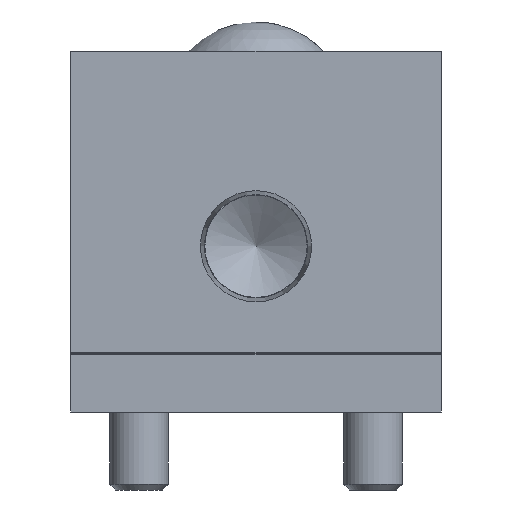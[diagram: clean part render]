
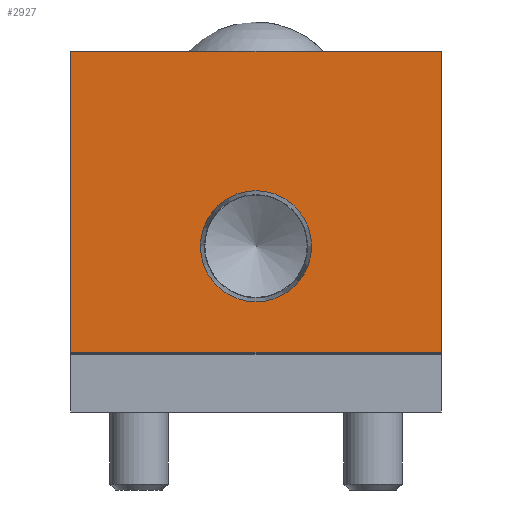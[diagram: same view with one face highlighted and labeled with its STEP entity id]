
A CAD part, front view. The second image highlights one B-rep face of the part: STEP entity #2927.
In plain terms, the highlighted planar face has unit normal (0, -1, 0).
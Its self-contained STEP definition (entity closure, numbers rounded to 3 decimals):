
#262=FACE_BOUND('',#695,.T.);
#335=CIRCLE('',#3087,5.704);
#477=FACE_OUTER_BOUND('',#694,.T.);
#694=EDGE_LOOP('',(#2137,#2138,#2139,#2140));
#695=EDGE_LOOP('',(#2141));
#922=LINE('',#4270,#1130);
#925=LINE('',#4275,#1133);
#927=LINE('',#4283,#1135);
#947=LINE('',#4332,#1155);
#1130=VECTOR('',#3431,30.9);
#1133=VECTOR('',#3436,38.);
#1135=VECTOR('',#3444,30.9);
#1155=VECTOR('',#3496,38.);
#1331=VERTEX_POINT('',#4267);
#1332=VERTEX_POINT('',#4269);
#1333=VERTEX_POINT('',#4273);
#1336=VERTEX_POINT('',#4281);
#1340=VERTEX_POINT('',#4295);
#1589=EDGE_CURVE('',#1332,#1331,#922,.T.);
#1592=EDGE_CURVE('',#1331,#1333,#925,.T.);
#1596=EDGE_CURVE('',#1336,#1333,#927,.T.);
#1601=EDGE_CURVE('',#1340,#1340,#335,.T.);
#1620=EDGE_CURVE('',#1336,#1332,#947,.T.);
#2137=ORIENTED_EDGE('',*,*,#1620,.T.);
#2138=ORIENTED_EDGE('',*,*,#1589,.T.);
#2139=ORIENTED_EDGE('',*,*,#1592,.T.);
#2140=ORIENTED_EDGE('',*,*,#1596,.F.);
#2141=ORIENTED_EDGE('',*,*,#1601,.T.);
#2646=PLANE('',#3149);
#2927=ADVANCED_FACE('',(#477,#262),#2646,.T.);
#3087=AXIS2_PLACEMENT_3D('',#4296,#3459,#3460);
#3149=AXIS2_PLACEMENT_3D('',#4494,#3634,#3635);
#3431=DIRECTION('',(0.,0.,1.));
#3436=DIRECTION('',(-1.,0.,0.));
#3444=DIRECTION('',(0.,0.,1.));
#3459=DIRECTION('center_axis',(0.,1.,0.));
#3460=DIRECTION('ref_axis',(1.,0.,0.));
#3496=DIRECTION('',(1.,0.,0.));
#3634=DIRECTION('center_axis',(0.,-1.,0.));
#3635=DIRECTION('ref_axis',(0.,0.,-1.));
#4267=CARTESIAN_POINT('',(19.,0.,37.));
#4269=CARTESIAN_POINT('',(19.,0.,6.1));
#4270=CARTESIAN_POINT('',(19.,0.,0.));
#4273=CARTESIAN_POINT('',(-19.,0.,37.));
#4275=CARTESIAN_POINT('',(19.,0.,37.));
#4281=CARTESIAN_POINT('',(-19.,0.,6.1));
#4283=CARTESIAN_POINT('',(-19.,0.,0.));
#4295=CARTESIAN_POINT('',(5.704,0.,17.));
#4296=CARTESIAN_POINT('Origin',(0.,0.,17.));
#4332=CARTESIAN_POINT('',(19.,0.,6.1));
#4494=CARTESIAN_POINT('Origin',(19.,0.,0.));
